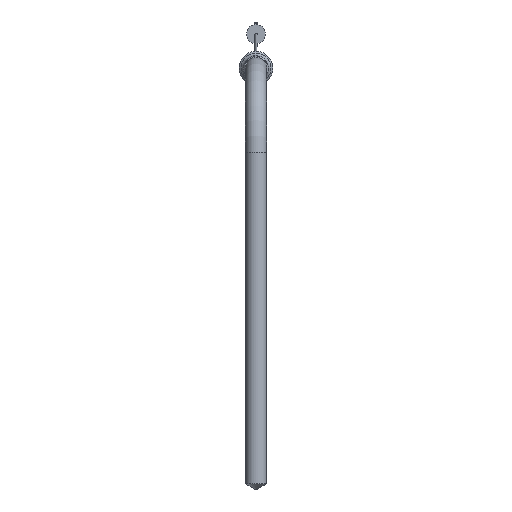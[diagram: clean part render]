
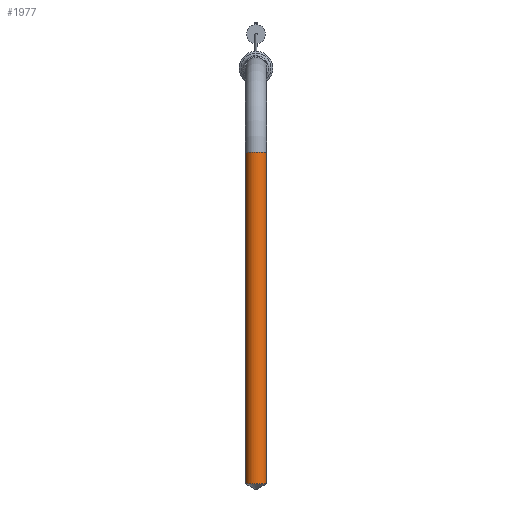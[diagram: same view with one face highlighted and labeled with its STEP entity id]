
A CAD part, top view. The second image highlights one B-rep face of the part: STEP entity #1977.
In plain terms, the highlighted cylindrical face has radius 2.5 mm (diameter 5 mm), a full revolution.
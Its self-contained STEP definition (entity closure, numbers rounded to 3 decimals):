
#53 = DIRECTION ( 'NONE',  ( 0., -1., 0. ) ) ;
#54 = EDGE_CURVE ( 'NONE', #2823, #2823, #1027, .T. ) ;
#163 = AXIS2_PLACEMENT_3D ( 'NONE', #2011, #53, #1791 ) ;
#212 = VERTEX_POINT ( 'NONE', #1707 ) ;
#375 = EDGE_CURVE ( 'NONE', #212, #212, #1719, .T. ) ;
#729 = CARTESIAN_POINT ( 'NONE',  ( 0., -20., 30. ) ) ;
#950 = AXIS2_PLACEMENT_3D ( 'NONE', #729, #2703, #2478 ) ;
#1027 = CIRCLE ( 'NONE', #163, 2.5 ) ;
#1138 = ORIENTED_EDGE ( 'NONE', *, *, #54, .T. ) ;
#1414 = FACE_OUTER_BOUND ( 'NONE', #1973, .T. ) ;
#1707 = CARTESIAN_POINT ( 'NONE',  ( 0., -98.557, 32.5 ) ) ;
#1719 = CIRCLE ( 'NONE', #2815, 2.5 ) ;
#1722 = CARTESIAN_POINT ( 'NONE',  ( -2.5, -20., 30. ) ) ;
#1791 = DIRECTION ( 'NONE',  ( -1., 0., 0. ) ) ;
#1829 = CYLINDRICAL_SURFACE ( 'NONE', #950, 2.5 ) ;
#1904 = ORIENTED_EDGE ( 'NONE', *, *, #375, .T. ) ;
#1973 = EDGE_LOOP ( 'NONE', ( #1904 ) ) ;
#1977 = ADVANCED_FACE ( 'NONE', ( #1414, #2262 ), #1829, .T. ) ;
#2011 = CARTESIAN_POINT ( 'NONE',  ( 0., -20., 30. ) ) ;
#2262 = FACE_OUTER_BOUND ( 'NONE', #2749, .T. ) ;
#2320 = CARTESIAN_POINT ( 'NONE',  ( 0., -98.557, 30. ) ) ;
#2336 = DIRECTION ( 'NONE',  ( 0., 0., 1. ) ) ;
#2478 = DIRECTION ( 'NONE',  ( 0., 0., 1. ) ) ;
#2703 = DIRECTION ( 'NONE',  ( 0., -1., 0. ) ) ;
#2749 = EDGE_LOOP ( 'NONE', ( #1138 ) ) ;
#2752 = DIRECTION ( 'NONE',  ( 0., 1., 0. ) ) ;
#2815 = AXIS2_PLACEMENT_3D ( 'NONE', #2320, #2752, #2336 ) ;
#2823 = VERTEX_POINT ( 'NONE', #1722 ) ;
